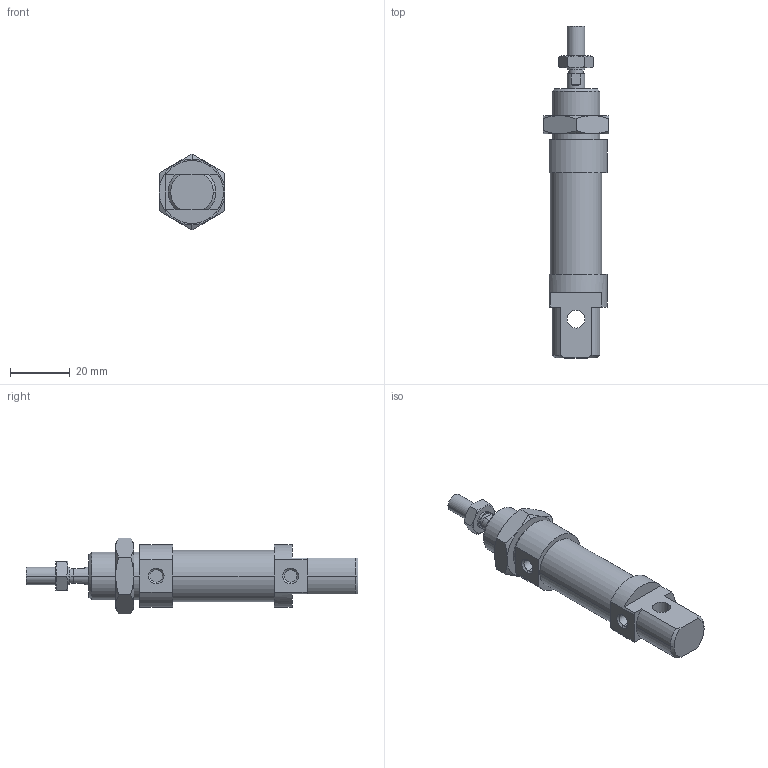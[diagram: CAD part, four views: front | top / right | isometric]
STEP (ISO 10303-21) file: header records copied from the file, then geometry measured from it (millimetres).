
FILE_DESCRIPTION((''),'2;1');
FILE_NAME('I:\DOC-EDP\Lib-3d\1200\CILINDRI\1280\1280_16_0000.stp','2003-04-07T14:52:01',('maffial1'),(''),'Autodesk Inventor (R) 6.0','Autodesk Inventor (R) 6.0','');
FILE_SCHEMA(('AUTOMOTIVE_DESIGN { 1 0 10303 214 1 1 1 1 }'));
Length unit declared in the file: millimetre
Products named in the file (5): 1280_16_0000; S1280_16_0; 1200_16_05; 1200_16_06; C1280_16_0
Assembly tree (4 placements, depth 2):
  1280_16_0000
    S1280_16_0
    1200_16_05
    1200_16_06
    C1280_16_0
Bounding box: 22 x 111 x 25.4 mm (x, y, z)
Volume: 22860.9 mm3; surface area: 9046.8 mm2
Topology: 4 solids, 4 shells, 121 faces, 268 edges, 162 vertices
Faces by surface type: cone 40, plane 39, cylinder 22, bspline 20
Entity records: 3653 total; most frequent: CARTESIAN_POINT 976, DIRECTION 556, ORIENTED_EDGE 536, EDGE_CURVE 268, AXIS2_PLACEMENT_3D 230, VERTEX_POINT 162, EDGE_LOOP 134, FACE_OUTER_BOUND 121
